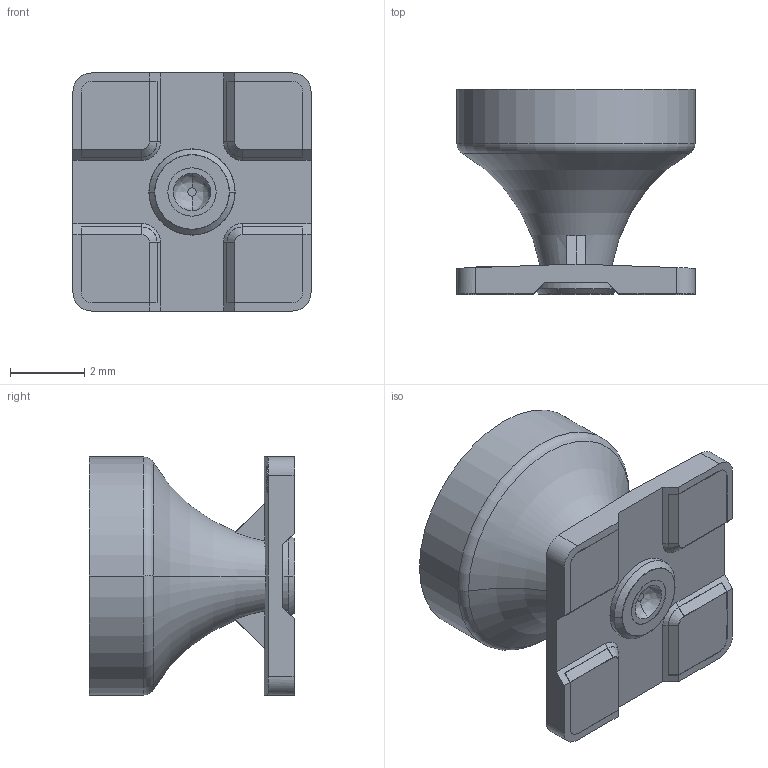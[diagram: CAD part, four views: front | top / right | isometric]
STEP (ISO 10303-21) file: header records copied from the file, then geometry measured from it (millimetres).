
FILE_DESCRIPTION((''),'2;1');
FILE_NAME('9002305L0-L01K-ME_FIT_ASM','2024-02-06T18:09:26',('sproust'),(''),'CREO PARAMETRIC BY PTC INC, 2023072','CREO PARAMETRIC BY PTC INC, 2023072','');
FILE_SCHEMA(('AUTOMOTIVE_DESIGN { 1 0 10303 214 1 1 1 1 }'));
Length unit declared in the file: millimetre
Products named in the file (3): 9002306-UWB-ME_FIT_CARRIER; 9002305L0-ME_FIT_LDS_PATTERN; 9002305L0-L01K-ME_FIT_ASM
Assembly tree (2 placements, depth 2):
  9002305L0-L01K-ME_FIT_ASM
    9002306-UWB-ME_FIT_CARRIER
    9002305L0-ME_FIT_LDS_PATTERN
Bounding box: 6.4 x 5.51 x 6.4 mm (x, y, z)
Volume: 110.6 mm3; surface area: 249.1 mm2
Topology: 7 solids, 7 shells, 116 faces, 276 edges, 176 vertices
Faces by surface type: plane 74, cone 20, cylinder 14, torus 4, bspline 4
Entity records: 4969 total; most frequent: CARTESIAN_POINT 1249, DIRECTION 556, ORIENTED_EDGE 552, PRESENTATION_STYLE_ASSIGNMENT 283, STYLED_ITEM 283, CURVE_STYLE 276, EDGE_CURVE 276, VECTOR 190
